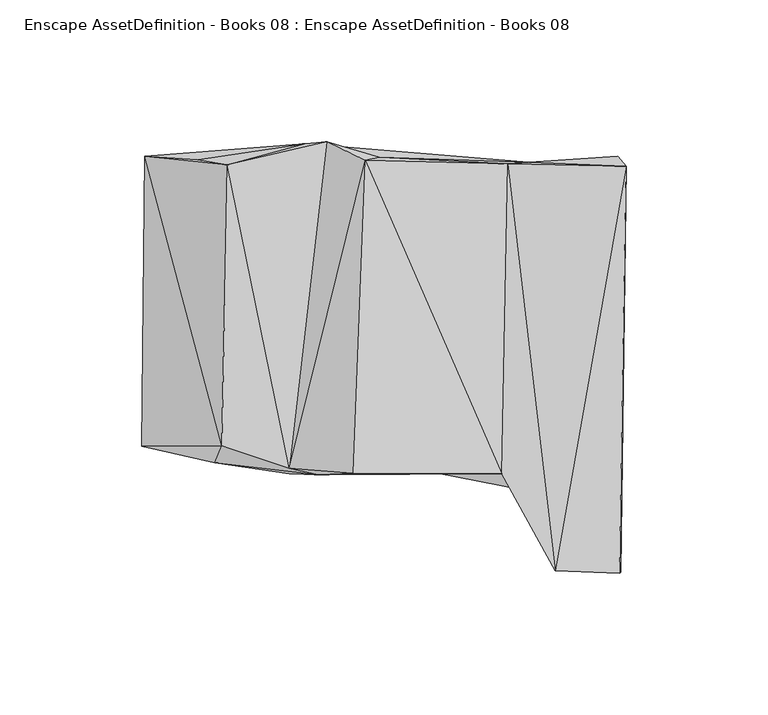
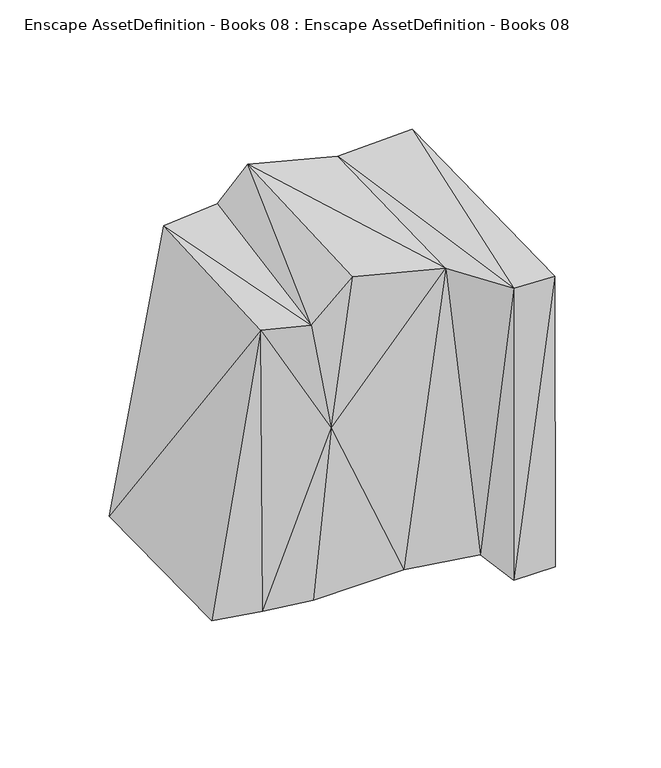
"""IFC4 building model written with IfcOpenShell, lengths in millimetres: geographic element geometry, Enscape AssetDefinition - Books 08 : Enscape AssetDefinition - Books 08."""

from ifc_helpers import new_model, si_unit, origin, place, context, project, spatial, faceted_brep, source, transform, mapped, element, save


def enscape_assetdefinition_books_08_enscape_assetdefinition_a813a285(model_context):
    return source(origin(), model_context, "Body", "Brep", [
        faceted_brep([(-35.2115929, -39.1250923, 0.0), (-61.5261681, -35.2264568, 0.0), (-30.5262934, 69.3819001, 0.0), (-29.6554156, 77.138558, 62.4069497), (30.091349, 68.0721104, 0.0), (-86.1148387, 72.7098659, 0.0), (16.1305554, -38.8060696, 0.0), (-25.0939578, -39.4976214, 99.4881094), (55.016879, -46.3665575, 0.0), (39.6918096, -39.1795859, 172.3525375), (-12.6361474, -38.9447771, 185.4295731), (-59.133485, -29.3532349, 163.8607383), (-35.3156254, -37.2069851, 163.2246673), (-8.493782, 71.367383, 184.1931045), (58.52516, -73.4321252, 174.4856387), (41.8130271, 70.0308457, 172.1375287), (-22.0364742, 77.7617469, 161.5155935), (-57.051897, 69.707863, 165.5460149), (-3.4993626, 72.3254457, 109.694913), (49.0693487, 70.6490874, 80.595322), (83.4348351, 69.2441836, 174.2151678), (58.3626702, -73.4985098, 0.0), (81.1332986, -74.1583556, 174.2795557), (81.5920234, -73.9354342, 0.0), (80.4863349, 72.7059022, 0.0), (-67.4865767, 71.4832991, 91.0825059), (-87.1957541, -29.4998642, 0.0)], [[[0, 1, 2]], [[3, 4, 2]], [[1, 5, 2]], [[3, 2, 5]], [[6, 2, 4]], [[0, 2, 6]], [[7, 1, 0]], [[7, 0, 6]], [[6, 4, 8]], [[9, 7, 6]], [[8, 9, 6]], [[7, 9, 10]], [[11, 1, 7]], [[11, 7, 12]], [[12, 7, 10]], [[10, 9, 13]], [[9, 14, 15]], [[9, 15, 13]], [[9, 8, 14]], [[10, 13, 12]], [[12, 16, 17]], [[12, 13, 16]], [[11, 12, 17]], [[13, 18, 16]], [[15, 18, 13]], [[15, 19, 18]], [[20, 19, 15]], [[20, 15, 14]], [[14, 8, 21]], [[22, 20, 14]], [[14, 21, 22]], [[23, 24, 20]], [[22, 23, 20]], [[20, 24, 19]], [[22, 21, 23]], [[21, 8, 24]], [[21, 24, 23]], [[8, 4, 24]], [[4, 19, 24]], [[19, 3, 18]], [[19, 4, 3]], [[18, 3, 16]], [[25, 3, 5]], [[17, 3, 25]], [[17, 16, 3]], [[17, 25, 5]], [[5, 11, 17]], [[26, 11, 5]], [[5, 1, 26]], [[11, 26, 1]]]),
    ])


if __name__ == "__main__":
    model = new_model("IFC4")
    model_context = context("Model", 3, world=origin())
    ifc_project = project(units=[si_unit("LENGTHUNIT", "METRE", prefix="MILLI")], contexts=[model_context])
    site = spatial("IfcSite", under=ifc_project)
    building = spatial("IfcBuilding", under=site)
    placement = place(None, origin())
    enscape_assetdefinition_books_08_enscape_assetdefinition_shape = enscape_assetdefinition_books_08_enscape_assetdefinition_a813a285(model_context)
    element("IfcGeographicElement", 1, ObjectType="Enscape AssetDefinition - Books 08 : Enscape AssetDefinition - Books 08", at=placement, inside=building, context=model_context, shape_type="MappedRepresentation", body=[
        mapped(enscape_assetdefinition_books_08_enscape_assetdefinition_shape, transform((0.0, 0.0, 0.0), x_axis=(1.0, 0.0, 0.0), y_axis=(0.0, 1.0, 0.0), z_axis=(0.0, 0.0, 1.0))),
    ])
    save(model, "model.ifc")
